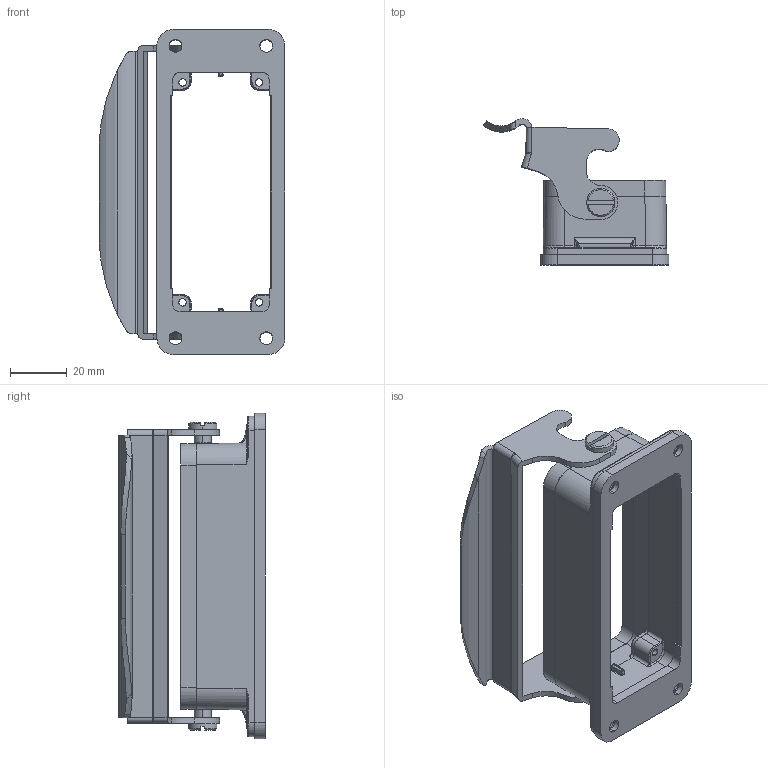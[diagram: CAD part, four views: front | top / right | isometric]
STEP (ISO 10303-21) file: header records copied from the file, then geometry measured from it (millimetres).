
FILE_DESCRIPTION (( 'STEP AP203' ), '1' );
FILE_NAME ('H16B-AG-LB.STEP', '2020-11-21T05:46:50', ( '' ), ( '' ), 'SwSTEP 2.0', 'SolidWorks 2016', '' );
FILE_SCHEMA (( 'CONFIG_CONTROL_DESIGN' ));
Length unit declared in the file: millimetre
Products named in the file (7): 24B-DANKOU; PRT0002; H16BMIFENGDIAN; PRT0002_1; H16B-AG-LB; H16B-AG; H16BMIFENGQUAN
Assembly tree (6 placements, depth 2):
  H16B-AG-LB
    24B-DANKOU
    H16B-AG
    H16BMIFENGDIAN
    H16BMIFENGQUAN
    PRT0002
    PRT0002_1
Bounding box: 65.46 x 51.57 x 114.6 mm (x, y, z)
Volume: 46106.1 mm3; surface area: 39224.3 mm2
Topology: 6 solids, 6 shells, 650 faces, 1605 edges, 983 vertices
Faces by surface type: cylinder 217, bspline 200, plane 177, cone 56
Entity records: 31424 total; most frequent: CARTESIAN_POINT 17904, ORIENTED_EDGE 3210, DIRECTION 1832, EDGE_CURVE 1605, VERTEX_POINT 983, EDGE_LOOP 700, B_SPLINE_CURVE_WITH_KNOTS 676, FACE_OUTER_BOUND 650
